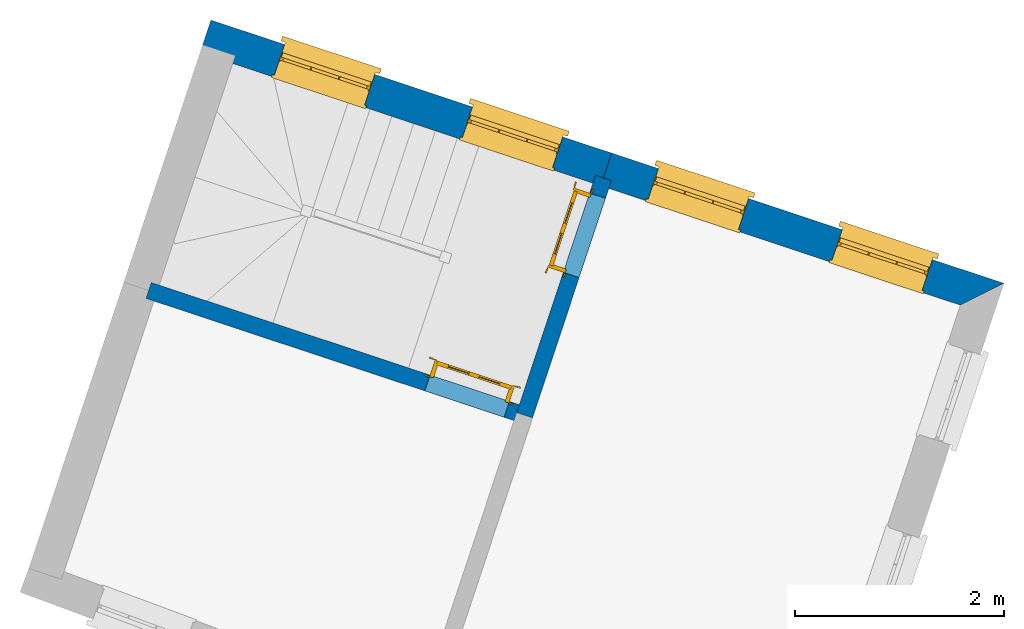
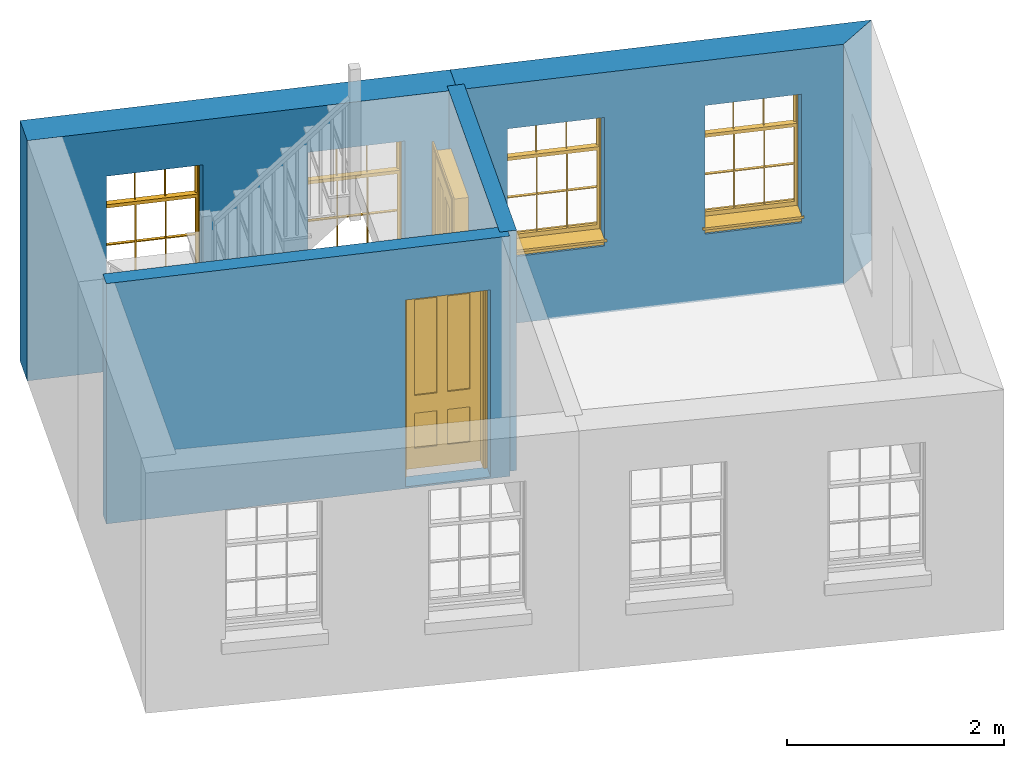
# One storey, part 2 of 3: 4 walls, 4 windows, 2 doors, 6 openings.
"""IFC4 building model written with IfcOpenShell, lengths in metres."""

from ifc_helpers import new_model, si_unit, frame, origin, origin_with_axes, place, context, subcontext, project, spatial, polyline, outline, extrude, faceted_brep, source, transform, mapped, material, layer, layer_set, layer_usage, type_object, type_shapes, element, fill, save


model = new_model("IFC4")

# Units and contexts
model_context = context("Model", 3, world=origin_with_axes())
body_context = subcontext(model_context, "Body", "Model", "MODEL_VIEW")
ifc_project = project(units=[si_unit("PLANEANGLEUNIT", "RADIAN"), si_unit("MASSUNIT", "GRAM", prefix="KILO"), si_unit("FORCEUNIT", "NEWTON", prefix="KILO"), si_unit("LENGTHUNIT", "METRE"), si_unit("AREAUNIT", "SQUARE_METRE"), si_unit("VOLUMEUNIT", "CUBIC_METRE")], contexts=[model_context, model_context])

# Sites, building, storey
site_1_placement = place(None, origin_with_axes())
site_1 = spatial("IfcSite", under=ifc_project, at=site_1_placement, Name="Tamar")
site_2_placement = place(site_1_placement, origin_with_axes())
site_2 = spatial("IfcSite", under=site_1, at=site_2_placement, Name="Site plot-18", CompositionType="ELEMENT")
building_placement = place(None, origin_with_axes())
building = spatial("IfcBuilding", under=site_2, at=building_placement, Name="Building plot-18", CompositionType="ELEMENT")
storey_placement = place(None, frame((0.0, 0.0, 29.6), z_axis=(0.0, 0.0, 1.0), x_axis=(1.0, 0.0, 0.0)))
storey = spatial("IfcBuildingStorey", under=building, at=storey_placement, Name="plot-18 1", CompositionType="ELEMENT", Elevation=29.6)

# Wall, openings, windows
ifc_material_1 = material(Name="Masonry")
ifc_layer_1 = layer(ifc_material_1, 0.33, ventilated=False)
ifc_layer_set_1 = layer_set([ifc_layer_1], Name="exterior_0.08_0.25")
ifc_layer_usage_1 = layer_usage(ifc_layer_set_1, "AXIS2", "POSITIVE", -0.25)
wall_type_1 = type_object("IfcWallType", Name="exterior_0.08_0.25", PredefinedType="SOLIDWALL", material=ifc_layer_set_1)
wall_1_placement = place(storey_placement, frame((270.790897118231, 294.207482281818, 0.0), z_axis=(0.0, 0.0, 1.0), x_axis=(-0.949078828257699, 0.31503869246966, 0.0)))
wall_1 = element("IfcWall", 1, at=wall_1_placement, inside=storey, type_object=wall_type_1, material=ifc_layer_usage_1, Name="exterior", context=body_context, shape_type="SweptSolid", body=[
    extrude(outline(polyline([(0.0799999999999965, 0.0799999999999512), (-0.249999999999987, -0.249999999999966), (3.70755693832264, -0.249999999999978), (3.70755693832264, 0.079999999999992), (0.0799999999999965, 0.0799999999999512)])), origin_with_axes(), (0.0, 0.0, 1.0), 2.7),
])
opening_1_placement = place(wall_1_placement, frame((0.47188923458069, 0.0, 0.75)))
opening_1 = element("IfcOpeningElement", 2, at=opening_1_placement, cuts=wall_1, Name="My Opening", ObjectType="Opening", context=body_context, shape_type="SweptSolid", body=[
    extrude(outline(polyline([(0.0, -0.269999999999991), (0.909999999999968, -0.269999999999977), (0.909999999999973, 1.10000000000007), (5.32907051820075e-15, 1.10000000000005), (0.0, -0.269999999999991)])), origin_with_axes(), (0.0, 0.0, 1.0), 1.445),
])
opening_2_placement = place(wall_1_placement, frame((2.32566770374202, 0.0, 0.75)))
opening_2 = element("IfcOpeningElement", 3, at=opening_2_placement, cuts=wall_1, Name="My Opening", ObjectType="Opening", context=body_context, shape_type="SweptSolid", body=[
    extrude(outline(polyline([(0.0, -0.270000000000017), (0.909999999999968, -0.270000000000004), (0.909999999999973, 1.10000000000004), (5.32907051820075e-15, 1.10000000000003), (0.0, -0.270000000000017)])), origin_with_axes(), (0.0, 0.0, 1.0), 1.445),
])
window_type = type_object("IfcWindowType", Name="sash_shorter", PartitioningType="DOUBLE_PANEL_HORIZONTAL", PredefinedType="NOTDEFINED")
shared_shape_1 = source(origin(), body_context, "Body", "Brep", [
    faceted_brep([(0.876875, 0.145, 0.999097), (0.876875, 0.145, 1.411875), (0.9, 0.145, 1.435), (0.033125, 0.145, 1.411875), (0.033125, 0.145, 0.999097), (0.01, 0.145, 1.435), (0.033125, 0.115, 1.411875), (0.01, 0.115, 1.435), (0.033125, 0.115, 0.999097), (0.876875, 0.115, 1.411875), (0.876875, 0.115, 0.999097), (0.9, 0.115, 1.435), (0.033125, 0.145, 0.960972), (0.01, 0.145, 0.960972), (0.033125, 0.145, 0.548195), (0.876875, 0.145, 0.960972), (0.876875, 0.145, 0.548195), (0.9, 0.145, 0.960972), (0.876875, 0.145, 0.538195), (0.876875, 0.145, 0.125417), (0.9, 0.145, 0.077167), (0.033125, 0.145, 0.125417), (0.033125, 0.145, 0.538195), (0.01, 0.145, 0.077167), (0.9, 0.115, 0.960972), (0.01, 0.115, 0.960972), (-0.0425, 0.0, 0.01), (-0.0425, -0.05, 0.001667), (0.0, 0.0, 0.01), (0.9525, 0.0, 0.01), (0.91, 0.0, 0.01), (0.9525, -0.05, 0.001667), (-0.02, 0.33, 0.077167), (0.0, 0.33, 0.077167), (-0.02, 0.36, 0.077167), (0.0, 0.19, 0.077167), (0.01, 0.19, 0.077167), (0.91, 0.19, 0.077167), (0.91, 0.33, 0.077167), (0.9, 0.19, 0.077167), (0.93, 0.33, 0.077167), (0.93, 0.36, 0.077167), (0.01, 0.145, 0.999097), (0.01, 0.175, 0.999097), (0.9, 0.145, 0.999097), (0.9, 0.175, 0.999097), (0.876875, 0.175, 0.125417), (0.876875, 0.175, 0.538195), (0.9, 0.175, 0.077167), (0.876875, 0.175, 0.548195), (0.876875, 0.175, 0.960972), (0.033125, 0.175, 0.125417), (0.01, 0.175, 0.077167), (0.033125, 0.175, 0.538195), (0.033125, 0.175, 0.960972), (0.033125, 0.175, 0.548195), (-0.02, 0.33, 0.052167), (-0.02, 0.36, 0.052167), (0.93, 0.36, 0.052167), (0.93, 0.33, 0.052167), (0.91, 0.33, 0.052167), (0.0, 0.33, 0.052167), (0.91, 0.1, 0.026667), (0.0, 0.1, 0.026667), (-0.0425, -0.05, -0.123333), (0.9525, -0.05, -0.123333), (-0.0425, 0.0, -0.123333), (0.9525, 0.0, -0.123333), (0.01, 0.19, 1.435), (0.9, 0.19, 1.435), (0.0, 0.19, 1.445), (0.91, 0.19, 1.445), (0.01, 0.1, 0.077167), (0.9, 0.1, 0.077167), (0.592292, 0.145, 0.125417), (0.592292, 0.175, 0.125417), (0.317708, 0.175, 0.125417), (0.317708, 0.145, 0.125417), (0.592292, 0.145, 0.548195), (0.317708, 0.145, 0.548195), (0.317708, 0.145, 0.538195), (0.592292, 0.145, 0.538195), (0.592292, 0.175, 0.548195), (0.317708, 0.175, 0.548195), (0.602292, 0.175, 0.548195), (0.602292, 0.145, 0.548195), (0.317708, 0.175, 0.538195), (0.307708, 0.175, 0.125417), (0.307708, 0.175, 0.538195), (0.602292, 0.175, 0.538195), (0.602292, 0.175, 0.125417), (0.592292, 0.175, 0.538195), (0.307708, 0.175, 0.548195), (0.317708, 0.175, 0.960972), (0.307708, 0.175, 0.960972), (0.602292, 0.175, 0.960972), (0.592292, 0.175, 0.960972), (0.307708, 0.145, 0.538195), (0.307708, 0.145, 0.125417), (0.307708, 0.145, 0.548195), (0.307708, 0.145, 0.960972), (0.592292, 0.145, 0.960972), (0.317708, 0.145, 0.960972), (0.602292, 0.145, 0.960972), (0.602292, 0.145, 0.538195), (0.602292, 0.145, 0.125417), (0.317708, 0.115, 1.411875), (0.307708, 0.115, 1.411875), (0.307708, 0.115, 0.999097), (0.317708, 0.115, 0.999097), (0.602292, 0.115, 1.411875), (0.592292, 0.115, 1.411875), (0.592292, 0.115, 0.999097), (0.602292, 0.115, 0.999097), (0.317708, 0.145, 0.999097), (0.307708, 0.145, 0.999097), (0.307708, 0.145, 1.411875), (0.317708, 0.145, 1.411875), (0.602292, 0.145, 0.999097), (0.592292, 0.145, 0.999097), (0.592292, 0.145, 1.411875), (0.602292, 0.145, 1.411875), (0.91, 0.1, 1.445), (0.9, 0.1, 1.435), (0.01, 0.1, 1.435), (0.0, 0.1, 1.445), (0.91, 0.0, 0.0), (0.0, 0.0, 0.0), (0.91, 0.33, 0.0), (0.0, 0.33, 0.0)], [[[0, 1, 2]], [[3, 4, 5]], [[6, 7, 8]], [[9, 10, 11]], [[12, 13, 14]], [[15, 16, 17]], [[18, 19, 20]], [[21, 22, 23]], [[24, 15, 17]], [[13, 12, 25]], [[26, 27, 28]], [[29, 30, 31]], [[32, 33, 34]], [[35, 36, 33]], [[37, 38, 39]], [[40, 41, 38]], [[42, 4, 43]], [[44, 45, 0]], [[46, 47, 48]], [[49, 50, 45]], [[51, 52, 53]], [[54, 55, 43]], [[38, 33, 36, 39]], [[41, 34, 33, 38]], [[56, 32, 34, 57]], [[57, 34, 41, 58]], [[58, 41, 40, 59]], [[57, 58, 60, 61]], [[52, 48, 39, 36]], [[62, 63, 28, 30]], [[27, 31, 30, 28]], [[27, 64, 65, 31]], [[66, 67, 65, 64]], [[2, 5, 68, 69]], [[68, 70, 71, 69]], [[20, 23, 72, 73]], [[73, 72, 63, 62]], [[74, 75, 76, 77]], [[78, 79, 80, 81]], [[78, 82, 83, 79]], [[16, 49, 84, 85]], [[86, 76, 87, 88]], [[89, 90, 75, 91]], [[92, 88, 53, 55]], [[82, 91, 86, 83]], [[93, 83, 92, 94]], [[95, 84, 82, 96]], [[89, 84, 49, 47]], [[97, 88, 87, 98]], [[22, 53, 88, 97]], [[81, 91, 75, 74]], [[80, 86, 91, 81]], [[77, 76, 86, 80]], [[99, 92, 55, 14]], [[100, 94, 92, 99]], [[101, 96, 82, 78]], [[79, 83, 93, 102]], [[85, 84, 95, 103]], [[104, 89, 47, 18]], [[105, 90, 89, 104]], [[104, 18, 16, 85]], [[80, 97, 98, 77]], [[104, 81, 74, 105]], [[103, 101, 78, 85]], [[99, 14, 22, 97]], [[102, 100, 99, 79]], [[106, 107, 108, 109]], [[110, 111, 112, 113]], [[114, 115, 116, 117]], [[118, 119, 120, 121]], [[107, 116, 115, 108]], [[111, 120, 119, 112]], [[109, 114, 117, 106]], [[113, 118, 121, 110]], [[85, 78, 81, 104]], [[84, 89, 91, 82]], [[83, 86, 88, 92]], [[79, 99, 97, 80]], [[109, 112, 119, 114]], [[102, 93, 96, 101]], [[106, 117, 120, 111]], [[98, 87, 51, 21]], [[6, 3, 116, 107]], [[110, 121, 1, 9]], [[19, 46, 90, 105]], [[26, 66, 64, 27]], [[29, 31, 65, 67]], [[25, 24, 112, 109]], [[11, 7, 106, 111]], [[75, 48, 52, 76]], [[43, 45, 96, 93]], [[45, 43, 114, 119]], [[5, 2, 120, 117]], [[24, 25, 102, 101]], [[42, 5, 4]], [[2, 44, 0]], [[49, 45, 48, 47]], [[52, 43, 55, 53]], [[14, 13, 23, 22]], [[20, 17, 16, 18]], [[24, 11, 10]], [[25, 8, 7]], [[8, 4, 3, 6]], [[9, 1, 0, 10]], [[15, 50, 49, 16]], [[18, 47, 46, 19]], [[21, 51, 53, 22]], [[14, 55, 54, 12]], [[44, 2, 69, 45]], [[68, 5, 42, 43]], [[36, 35, 70, 68]], [[39, 69, 71, 37]], [[62, 122, 123, 73]], [[63, 72, 124, 125]], [[8, 108, 115, 4]], [[113, 10, 0, 118]], [[94, 100, 12, 54]], [[17, 20, 73, 24]], [[72, 23, 13, 25]], [[52, 36, 68, 43]], [[69, 39, 48, 45]], [[11, 24, 73, 123]], [[7, 124, 72, 25]], [[23, 77, 98]], [[98, 21, 23]], [[105, 74, 20]], [[20, 19, 105]], [[20, 74, 77, 23]], [[113, 112, 24]], [[24, 10, 113]], [[25, 109, 108]], [[108, 8, 25]], [[110, 9, 11]], [[11, 111, 110]], [[7, 6, 107]], [[107, 106, 7]], [[5, 117, 116]], [[116, 3, 5]], [[121, 120, 2]], [[2, 1, 121]], [[11, 123, 124, 7]], [[122, 125, 124, 123]], [[43, 93, 94]], [[94, 54, 43]], [[96, 45, 95]], [[50, 95, 45]], [[15, 103, 95, 50]], [[48, 75, 90]], [[90, 46, 48]], [[87, 76, 52]], [[52, 51, 87]], [[103, 15, 24]], [[24, 101, 103]], [[100, 102, 25]], [[25, 12, 100]], [[115, 114, 43]], [[43, 4, 115]], [[118, 0, 45]], [[45, 119, 118]], [[71, 70, 125, 122]], [[70, 35, 63, 125]], [[122, 62, 37, 71]], [[126, 67, 66, 127]], [[60, 58, 59]], [[38, 60, 59, 40]], [[61, 56, 57]], [[32, 56, 61, 33]], [[61, 60, 128, 129]], [[62, 60, 38, 37]], [[126, 128, 60, 62]], [[33, 61, 63, 35]], [[61, 129, 127, 63]], [[128, 126, 127, 129]], [[28, 127, 66, 26]], [[63, 127, 28]], [[29, 67, 126, 30]], [[30, 126, 62]]]),
])
type_shapes(window_type, [shared_shape_1])
window_1_placement = place(storey_placement, frame((270.428097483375, 294.6123969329, 0.75), z_axis=(0.0, 0.0, 1.0), x_axis=(-0.86366173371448, 0.286685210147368, 0.0)))
window_1 = element("IfcWindow", 4, at=window_1_placement, inside=storey, type_object=window_type, Name="bedroom outside window", OverallHeight=1.445, OverallWidth=0.91, context=body_context, shape_type="MappedRepresentation", body=[
    mapped(shared_shape_1, transform((0.0, 0.0, 0.0), scale=1.0)),
])
fill(opening_1, window_1)
window_2_placement = place(storey_placement, frame((268.668715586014, 295.196408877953, 0.75), z_axis=(0.0, 0.0, 1.0), x_axis=(-0.86366173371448, 0.286685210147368, 0.0)))
window_2 = element("IfcWindow", 5, at=window_2_placement, inside=storey, type_object=window_type, Name="bedroom outside window", OverallHeight=1.445, OverallWidth=0.91, context=body_context, shape_type="MappedRepresentation", body=[
    mapped(shared_shape_1, transform((0.0, 0.0, 0.0), scale=1.0)),
])
fill(opening_2, window_2)

wall_2_placement = place(storey_placement, frame((267.272133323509, 295.375506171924, 0.0), z_axis=(0.0, 0.0, 1.0), x_axis=(-0.949078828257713, 0.315038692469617, 0.0)))
wall_2 = element("IfcWall", 6, at=wall_2_placement, inside=storey, type_object=wall_type_1, material=ifc_layer_usage_1, Name="exterior", context=body_context, shape_type="SweptSolid", body=[
    extrude(outline(polyline([(-9.55190120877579e-15, 0.0799999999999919), (-2.19115966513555e-14, -0.249999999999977), (4.04244306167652, -0.250000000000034), (4.04244306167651, 0.079999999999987), (-9.55190120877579e-15, 0.0799999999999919)])), origin_with_axes(), (0.0, 0.0, 1.0), 2.7),
])
opening_3_placement = place(wall_2_placement, frame((0.493110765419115, 0.0, 0.75)))
opening_3 = element("IfcOpeningElement", 7, at=opening_3_placement, cuts=wall_2, Name="My Opening", ObjectType="Opening", context=body_context, shape_type="SweptSolid", body=[
    extrude(outline(polyline([(0.0, -0.269999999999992), (0.910000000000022, -0.270000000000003), (0.910000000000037, 1.10000000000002), (1.43218770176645e-14, 1.10000000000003), (0.0, -0.269999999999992)])), origin_with_axes(), (0.0, 0.0, 1.0), 1.445),
])
opening_4_placement = place(wall_2_placement, frame((2.38933229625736, 0.0, 0.75)))
opening_4 = element("IfcOpeningElement", 8, at=opening_4_placement, cuts=wall_2, Name="My Opening", ObjectType="Opening", context=body_context, shape_type="SweptSolid", body=[
    extrude(outline(polyline([(0.0, -0.269999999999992), (0.910000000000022, -0.270000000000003), (0.910000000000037, 1.10000000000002), (1.46549439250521e-14, 1.10000000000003), (0.0, -0.269999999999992)])), origin_with_axes(), (0.0, 0.0, 1.0), 1.445),
])
window_3_placement = place(storey_placement, frame((266.889192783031, 295.787106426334, 0.75), z_axis=(0.0, 0.0, 1.0), x_axis=(-0.863661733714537, 0.286685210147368, 0.0)))
window_3 = element("IfcWindow", 9, at=window_3_placement, inside=storey, type_object=window_type, Name="circulation outside window", OverallHeight=1.445, OverallWidth=0.91, context=body_context, shape_type="MappedRepresentation", body=[
    mapped(shared_shape_1, transform((0.0, 0.0, 0.0), scale=1.0)),
])
fill(opening_3, window_3)
window_4_placement = place(storey_placement, frame((265.089529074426, 296.384489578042, 0.75), z_axis=(0.0, 0.0, 1.0), x_axis=(-0.863661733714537, 0.286685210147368, 0.0)))
window_4 = element("IfcWindow", 10, at=window_4_placement, inside=storey, type_object=window_type, Name="circulation outside window", OverallHeight=1.445, OverallWidth=0.91, context=body_context, shape_type="MappedRepresentation", body=[
    mapped(shared_shape_1, transform((0.0, 0.0, 0.0), scale=1.0)),
])
fill(opening_4, window_4)

# Wall, opening, door
ifc_material_2 = material(Name="Masonry")
ifc_layer_2 = layer(ifc_material_2, 0.16, ventilated=False)
ifc_layer_set_2 = layer_set([ifc_layer_2], Name="interior_0.08_0.08")
ifc_layer_usage_2 = layer_usage(ifc_layer_set_2, "AXIS2", "POSITIVE", -0.08)
wall_type_2 = type_object("IfcWallType", Name="interior_0.08_0.08", PredefinedType="SOLIDWALL", material=ifc_layer_set_2)
wall_3_placement = place(storey_placement, frame((262.91839117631, 294.297538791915, 0.0), z_axis=(0.0, 0.0, 1.0), x_axis=(0.949078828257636, -0.315038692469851, 0.0)))
wall_3 = element("IfcWall", 11, at=wall_3_placement, inside=storey, type_object=wall_type_2, material=ifc_layer_usage_2, Name="interior", context=body_context, shape_type="SweptSolid", body=[
    extrude(outline(polyline([(2.46784950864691e-14, 0.0800000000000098), (-2.47415829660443e-14, -0.0800000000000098), (3.79244306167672, -0.0800000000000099), (3.79244306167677, 0.0800000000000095), (2.46784950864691e-14, 0.0800000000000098)])), origin_with_axes(), (0.0, 0.0, 1.0), 2.7),
])
opening_5_placement = place(wall_3_placement, frame((2.81244306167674, 0.0, 0.0199999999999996)))
opening_5 = element("IfcOpeningElement", 12, at=opening_5_placement, cuts=wall_3, Name="My Opening", ObjectType="Opening", context=body_context, shape_type="SweptSolid", body=[
    extrude(outline(polyline([(0.0, -0.0999999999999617), (0.800000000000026, -0.0999999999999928), (0.800000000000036, 1.09999999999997), (1.06581410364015e-14, 1.10000000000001), (0.0, -0.0999999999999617)])), origin_with_axes(), (0.0, 0.0, 1.0), 2.1),
])
door_type = type_object("IfcDoorType", Name="door_inside", OperationType="SINGLE_SWING_LEFT", PredefinedType="NOTDEFINED")
shared_shape_2 = source(origin(), body_context, "Body", "Brep", [
    faceted_brep([(0.773, 0.33, 1.895), (0.66, 0.33, 1.895), (0.66, 0.33, 2.073), (0.773, 0.33, 2.073), (0.773, 0.33, 0.82), (0.66, 0.33, 0.82), (0.45, 0.33, 1.895), (0.45, 0.33, 2.073), (0.773, 0.33, 0.62), (0.66, 0.33, 0.62), (0.66, 0.315, 0.82), (0.66, 0.315, 1.895), (0.45, 0.315, 1.895), (0.35, 0.33, 1.895), (0.35, 0.33, 2.073), (0.773, 0.33, 0.225), (0.66, 0.33, 0.225), (0.45, 0.33, 0.62), (0.45, 0.33, 0.82), (0.45, 0.315, 0.82), (0.35, 0.33, 0.82), (0.14, 0.33, 2.073), (0.14, 0.33, 1.895), (0.773, 0.33, 0.0), (0.66, 0.33, 0.0), (0.66, 0.315, 0.225), (0.66, 0.315, 0.62), (0.45, 0.315, 0.62), (0.35, 0.33, 0.62), (0.35, 0.315, 0.82), (0.35, 0.315, 1.895), (0.14, 0.315, 1.895), (0.027, 0.33, 2.073), (0.027, 0.33, 1.895), (0.773, 0.292, 0.0), (0.66, 0.292, 0.0), (0.45, 0.33, 0.0), (0.45, 0.33, 0.225), (0.45, 0.315, 0.225), (0.35, 0.33, 0.225), (0.14, 0.33, 0.82), (0.14, 0.33, 0.62), (0.14, 0.315, 0.82), (0.027, 0.33, 0.82), (0.773, 0.292, 0.225), (0.66, 0.292, 0.225), (0.45, 0.292, 0.0), (0.35, 0.33, 0.0), (0.35, 0.315, 0.225), (0.35, 0.315, 0.62), (0.14, 0.315, 0.62), (0.027, 0.33, 0.62), (0.773, 0.292, 0.62), (0.66, 0.292, 0.62), (0.45, 0.292, 0.225), (0.35, 0.292, 0.0), (0.14, 0.33, 0.225), (0.14, 0.33, 0.0), (0.14, 0.315, 0.225), (0.027, 0.33, 0.225), (0.773, 0.292, 0.82), (0.66, 0.292, 0.82), (0.66, 0.307, 0.62), (0.66, 0.307, 0.225), (0.45, 0.307, 0.225), (0.35, 0.292, 0.225), (0.14, 0.292, 0.0), (0.027, 0.33, 0.0), (0.773, 0.292, 1.895), (0.66, 0.292, 1.895), (0.45, 0.292, 0.62), (0.45, 0.292, 0.82), (0.45, 0.307, 0.62), (0.35, 0.292, 0.62), (0.14, 0.292, 0.225), (0.027, 0.292, 0.0), (0.773, 0.292, 2.073), (0.66, 0.292, 2.073), (0.66, 0.307, 1.895), (0.66, 0.307, 0.82), (0.45, 0.307, 0.82), (0.35, 0.292, 0.82), (0.35, 0.307, 0.62), (0.35, 0.307, 0.225), (0.14, 0.307, 0.225), (0.027, 0.292, 0.225), (0.45, 0.292, 1.895), (0.45, 0.292, 2.073), (0.45, 0.307, 1.895), (0.35, 0.292, 1.895), (0.14, 0.292, 0.82), (0.14, 0.292, 0.62), (0.14, 0.307, 0.62), (0.027, 0.292, 0.62), (0.35, 0.292, 2.073), (0.35, 0.307, 1.895), (0.35, 0.307, 0.82), (0.14, 0.307, 0.82), (0.027, 0.292, 0.82), (0.14, 0.292, 2.073), (0.14, 0.292, 1.895), (0.14, 0.307, 1.895), (0.027, 0.292, 1.895), (0.027, 0.292, 2.073), (0.02, 0.335, 0.0), (0.005, 0.34, 0.0), (0.005, 0.34, 2.095), (0.02, 0.335, 2.08), (0.02, 0.33, 0.0), (0.0, 0.335, 0.0), (0.0, 0.335, 2.1), (0.795, 0.34, 2.095), (0.78, 0.335, 2.08), (0.02, 0.33, 2.08), (0.0, 0.33, 0.0), (-0.032, 0.345, 0.0), (-0.032, 0.345, 2.132), (0.8, 0.335, 2.1), (0.795, 0.34, 0.0), (0.78, 0.335, 0.0), (0.78, 0.33, 2.08), (0.04, 0.29, 0.0), (0.025, 0.29, 0.0), (0.025, 0.29, 2.075), (0.04, 0.29, 2.06), (-0.04, 0.34, 0.0), (-0.04, 0.34, 2.14), (0.832, 0.345, 2.132), (0.8, 0.335, 0.0), (0.78, 0.33, 0.0), (0.8, 0.33, 0.0), (0.86, 0.33, 0.0), (0.86, 0.33, 2.16), (0.8, 0.33, 2.1), (-0.06, 0.33, 2.16), (0.0, 0.33, 2.1), (-0.06, 0.33, 0.0), (-0.04, 0.345, 0.0), (-0.04, 0.345, 2.14), (0.84, 0.34, 2.14), (0.832, 0.345, 0.0), (0.84, 0.34, 0.0), (0.86, 0.345, 0.0), (0.86, 0.345, 2.16), (-0.06, 0.345, 2.16), (-0.06, 0.345, 0.0), (0.84, 0.345, 0.0), (0.84, 0.345, 2.14), (-0.025, 0.155, 0.0), (-0.025, 0.16, 0.0), (-0.025, 0.16, 2.125), (-0.025, 0.155, 2.125), (-0.017, 0.155, 0.0), (-0.017, 0.155, 2.117), (0.825, 0.16, 2.125), (0.825, 0.155, 2.125), (0.825, 0.155, 0.0), (0.845, 0.155, 0.0), (-0.045, 0.155, 2.145), (-0.045, 0.155, 0.0), (0.845, 0.155, 2.145), (0.015, 0.165, 0.0), (0.015, 0.165, 2.085), (0.817, 0.155, 2.117), (0.825, 0.16, 0.0), (0.845, 0.17, 0.0), (0.845, 0.17, 2.145), (-0.045, 0.17, 2.145), (-0.045, 0.17, 0.0), (0.02, 0.16, 0.0), (0.02, 0.16, 2.08), (0.785, 0.165, 2.085), (0.817, 0.155, 0.0), (0.8, 0.17, 0.0), (0.8, 0.17, 2.1), (0.0, 0.17, 2.1), (0.0, 0.17, 0.0), (0.035, 0.165, 0.0), (0.035, 0.165, 2.065), (0.78, 0.16, 2.08), (0.785, 0.165, 0.0), (0.775, 0.29, 2.075), (0.76, 0.29, 2.06), (0.035, 0.17, 2.065), (0.035, 0.17, 0.0), (0.765, 0.165, 2.065), (0.78, 0.16, 0.0), (0.765, 0.17, 0.0), (0.765, 0.17, 2.065), (0.765, 0.165, 0.0), (0.04, 0.17, 2.06), (0.04, 0.17, 0.0), (0.76, 0.17, 2.06), (0.76, 0.17, 0.0), (0.76, 0.29, 0.0), (0.775, 0.29, 0.0), (0.025, 0.33, 0.0), (0.025, 0.33, 2.075), (0.775, 0.33, 0.0), (0.775, 0.33, 2.075)], [[[0, 1, 2, 3]], [[1, 0, 4, 5]], [[1, 6, 7, 2]], [[8, 9, 5, 4]], [[1, 5, 10, 11]], [[6, 1, 11, 12]], [[6, 13, 14, 7]], [[15, 16, 9, 8]], [[9, 17, 18, 5]], [[5, 18, 19, 10]], [[10, 19, 12, 11]], [[18, 6, 12, 19]], [[18, 20, 13, 6]], [[21, 14, 13, 22]], [[23, 24, 16, 15]], [[9, 16, 25, 26]], [[17, 9, 26, 27]], [[17, 28, 20, 18]], [[13, 20, 29, 30]], [[22, 13, 30, 31]], [[32, 21, 22, 33]], [[34, 35, 24, 23]], [[24, 36, 37, 16]], [[16, 37, 38, 25]], [[25, 38, 27, 26]], [[37, 17, 27, 38]], [[37, 39, 28, 17]], [[40, 20, 28, 41]], [[20, 40, 42, 29]], [[31, 30, 29, 42]], [[40, 22, 31, 42]], [[33, 22, 40, 43]], [[35, 34, 44, 45]], [[35, 46, 36, 24]], [[36, 47, 39, 37]], [[28, 39, 48, 49]], [[41, 28, 49, 50]], [[43, 40, 41, 51]], [[45, 44, 52, 53]], [[46, 35, 45, 54]], [[46, 55, 47, 36]], [[56, 39, 47, 57]], [[39, 56, 58, 48]], [[50, 49, 48, 58]], [[56, 41, 50, 58]], [[51, 41, 56, 59]], [[53, 52, 60, 61]], [[45, 53, 62, 63]], [[54, 45, 63, 64]], [[55, 46, 54, 65]], [[55, 66, 57, 47]], [[59, 56, 57, 67]], [[61, 60, 68, 69]], [[70, 53, 61, 71]], [[53, 70, 72, 62]], [[72, 64, 63, 62]], [[70, 54, 64, 72]], [[65, 54, 70, 73]], [[65, 74, 66, 55]], [[67, 57, 66, 75]], [[69, 68, 76, 77]], [[61, 69, 78, 79]], [[71, 61, 79, 80]], [[73, 70, 71, 81]], [[65, 73, 82, 83]], [[74, 65, 83, 84]], [[74, 85, 75, 66]], [[86, 69, 77, 87]], [[69, 86, 88, 78]], [[88, 80, 79, 78]], [[86, 71, 80, 88]], [[81, 71, 86, 89]], [[73, 81, 90, 91]], [[73, 91, 92, 82]], [[83, 82, 92, 84]], [[91, 74, 84, 92]], [[91, 93, 85, 74]], [[89, 86, 87, 94]], [[81, 89, 95, 96]], [[90, 81, 96, 97]], [[90, 98, 93, 91]], [[94, 99, 100, 89]], [[89, 100, 101, 95]], [[101, 97, 96, 95]], [[100, 90, 97, 101]], [[100, 102, 98, 90]], [[99, 103, 102, 100]], [[32, 103, 99, 21]], [[102, 103, 32, 33]], [[98, 102, 33, 43]], [[21, 99, 94, 14]], [[94, 87, 7, 14]], [[7, 87, 77, 2]], [[76, 3, 2, 77]], [[43, 51, 93, 98]], [[51, 59, 85, 93]], [[67, 75, 85, 59]], [[34, 23, 15, 44]], [[44, 15, 8, 52]], [[52, 8, 4, 60]], [[0, 68, 60, 4]], [[0, 3, 76, 68]], [[104, 105, 106, 107]], [[104, 108, 109, 105]], [[105, 109, 110, 106]], [[107, 106, 111, 112]], [[107, 113, 108, 104]], [[114, 109, 108]], [[109, 115, 116, 110]], [[106, 110, 117, 111]], [[112, 111, 118, 119]], [[113, 107, 112, 120]], [[121, 122, 123, 124]], [[115, 109, 114, 125]], [[115, 125, 126, 116]], [[110, 116, 127, 117]], [[111, 117, 128, 118]], [[118, 128, 129, 119]], [[120, 112, 119, 129]], [[130, 129, 128]], [[130, 131, 132, 133]], [[133, 132, 134, 135]], [[135, 134, 136, 114]], [[136, 125, 114]], [[125, 137, 138, 126]], [[116, 126, 139, 127]], [[117, 127, 140, 128]], [[141, 130, 128, 140]], [[131, 130, 141]], [[131, 142, 143, 132]], [[132, 143, 144, 134]], [[134, 144, 145, 136]], [[137, 125, 136, 145]], [[143, 142, 146]], [[143, 146, 147]], [[137, 145, 144]], [[143, 147, 138]], [[138, 137, 144]], [[143, 138, 144]], [[126, 138, 147, 139]], [[127, 139, 141, 140]], [[142, 131, 141, 146]], [[139, 147, 146, 141]], [[148, 149, 150, 151]], [[149, 152, 153, 150]], [[151, 150, 154, 155]], [[155, 156, 157]], [[158, 159, 148]], [[158, 148, 151]], [[155, 157, 160]], [[158, 151, 155]], [[155, 160, 158]], [[152, 161, 162, 153]], [[150, 153, 163, 154]], [[155, 154, 164, 156]], [[156, 164, 165, 157]], [[157, 165, 166, 160]], [[160, 166, 167, 158]], [[158, 167, 168, 159]], [[161, 169, 170, 162]], [[153, 162, 171, 163]], [[154, 163, 172, 164]], [[165, 164, 173]], [[165, 173, 174, 166]], [[166, 174, 175, 167]], [[167, 175, 176, 168]], [[169, 177, 178, 170]], [[162, 170, 179, 171]], [[163, 171, 180, 172]], [[172, 180, 173, 164]], [[124, 123, 181, 182]], [[183, 178, 177, 184]], [[170, 178, 185, 179]], [[171, 179, 186, 180]], [[187, 173, 180]], [[185, 188, 187, 189]], [[188, 185, 178, 183]], [[179, 185, 189, 186]], [[189, 187, 180, 186]], [[190, 183, 184, 191]], [[192, 188, 183, 190]], [[191, 184, 122, 121]], [[124, 190, 191, 121]], [[193, 187, 188, 192]], [[182, 192, 190, 124]], [[184, 176, 122]], [[194, 195, 187, 193]], [[192, 182, 194, 193]], [[161, 176, 184]], [[114, 108, 122, 176]], [[173, 187, 195]], [[152, 149, 176, 161]], [[169, 161, 184, 177]], [[196, 122, 108]], [[176, 175, 135, 114]], [[173, 195, 129, 130]], [[176, 149, 168]], [[123, 122, 196, 197]], [[196, 108, 113, 197]], [[175, 174, 133, 135]], [[198, 129, 195]], [[133, 174, 173, 130]], [[159, 168, 149, 148]], [[181, 123, 197, 199]], [[197, 113, 120, 199]], [[199, 120, 129, 198]], [[195, 181, 199, 198]], [[195, 194, 182, 181]]]),
])
type_shapes(door_type, [shared_shape_2])
door_1_placement = place(storey_placement, frame((265.556117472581, 293.316602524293, 0.0199999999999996), z_axis=(0.0, 0.0, 1.0), x_axis=(0.759263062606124, -0.252030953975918, 0.0)))
door_1 = element("IfcDoor", 13, at=door_1_placement, inside=storey, type_object=door_type, Name="toilet inside door", OverallHeight=2.1, OverallWidth=0.8, context=body_context, shape_type="MappedRepresentation", body=[
    mapped(shared_shape_2, transform((0.0, 0.0, 0.0), scale=1.0)),
])
fill(opening_5, door_1)

wall_4_placement = place(storey_placement, frame((266.51771859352, 293.102772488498, 0.0), z_axis=(0.0, 0.0, 1.0), x_axis=(0.315038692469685, 0.949078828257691, 0.0)))
wall_4 = element("IfcWall", 14, at=wall_4_placement, inside=storey, type_object=wall_type_2, material=ifc_layer_usage_2, Name="interior", context=body_context, shape_type="SweptSolid", body=[
    extrude(outline(polyline([(-1.5289533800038e-14, 0.0799999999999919), (1.52993309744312e-14, -0.0799999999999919), (2.39467325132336, -0.0799999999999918), (2.39467325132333, 0.0799999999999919), (-1.5289533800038e-14, 0.0799999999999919)])), origin_with_axes(), (0.0, 0.0, 1.0), 2.7),
])
opening_6_placement = place(wall_4_placement, frame((1.41467325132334, 0.0, 0.0199999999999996)))
opening_6 = element("IfcOpeningElement", 15, at=opening_6_placement, cuts=wall_4, Name="My Opening", ObjectType="Opening", context=body_context, shape_type="SweptSolid", body=[
    extrude(outline(polyline([(0.0, -0.100000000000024), (0.799999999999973, -0.100000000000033), (0.799999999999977, 1.10000000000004), (4.66293670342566e-15, 1.10000000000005), (0.0, -0.100000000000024)])), origin_with_axes(), (0.0, 0.0, 1.0), 2.1),
])
door_2_placement = place(storey_placement, frame((267.058303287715, 294.413905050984, 0.0199999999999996), z_axis=(0.0, 0.0, 1.0), x_axis=(0.252030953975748, 0.759263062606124, 0.0)))
door_2 = element("IfcDoor", 16, at=door_2_placement, inside=storey, type_object=door_type, Name="bedroom inside door", OverallHeight=2.1, OverallWidth=0.8, context=body_context, shape_type="MappedRepresentation", body=[
    mapped(shared_shape_2, transform((0.0, 0.0, 0.0), scale=1.0)),
])
fill(opening_6, door_2)

save(model, "model.ifc")
